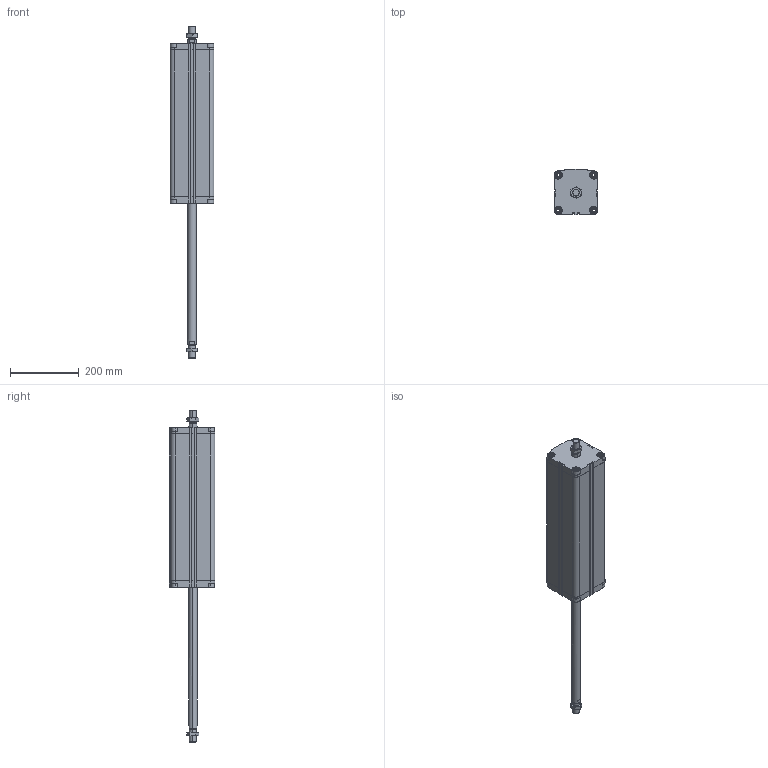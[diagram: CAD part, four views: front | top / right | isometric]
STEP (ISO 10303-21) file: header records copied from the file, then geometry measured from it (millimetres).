
FILE_DESCRIPTION (( 'STEP AP203' ), '1' );
FILE_NAME ('CDVU100-400M-P.STEP', '2020-07-21T16:42:05', ( '' ), ( '' ), 'SwSTEP 2.0', 'SolidWorks 2019', '' );
FILE_SCHEMA (( 'CONFIG_CONTROL_DESIGN' ));
Length unit declared in the file: millimetre
Products named in the file (1): CDVU100-400M-P
Bounding box: 128 x 133 x 966.5 mm (x, y, z)
Volume: 4601655 mm3; surface area: 641020.1 mm2
Topology: 4 solids, 4 shells, 706 faces, 1888 edges, 1234 vertices
Faces by surface type: plane 410, cylinder 216, cone 80
Entity records: 23055 total; most frequent: CARTESIAN_POINT 5265, ORIENTED_EDGE 3768, DIRECTION 3610, EDGE_CURVE 1884, AXIS2_PLACEMENT_3D 1235, VERTEX_POINT 1234, VECTOR 1140, LINE 1140
